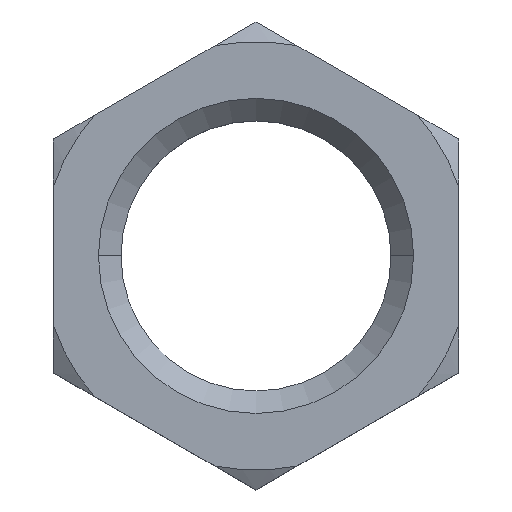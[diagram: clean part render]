
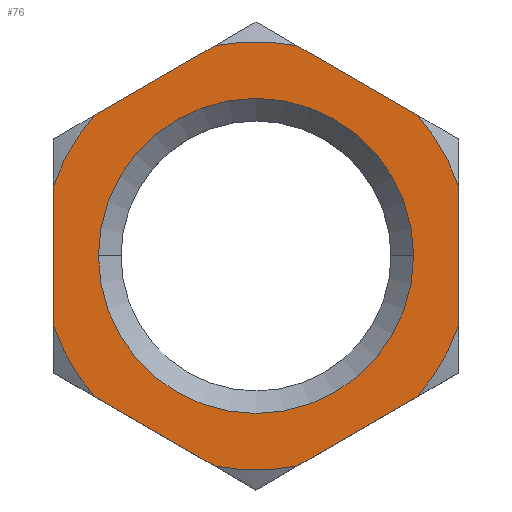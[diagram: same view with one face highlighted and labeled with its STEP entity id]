
A CAD part, top view. The second image highlights one B-rep face of the part: STEP entity #76.
In plain terms, the highlighted planar face has unit normal (0, 0, 1).
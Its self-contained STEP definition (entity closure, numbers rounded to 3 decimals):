
#7 = EDGE_CURVE ( 'NONE', #98, #9, #523, .T. ) ;
#9 = VERTEX_POINT ( 'NONE', #710 ) ;
#20 = CARTESIAN_POINT ( 'NONE',  ( -18., 6.19, 5.45 ) ) ;
#25 = DIRECTION ( 'NONE',  ( 0., -1., 0. ) ) ;
#47 = CARTESIAN_POINT ( 'NONE',  ( 18., 10.392, 5.45 ) ) ;
#48 = DIRECTION ( 'NONE',  ( -1., 0., 0. ) ) ;
#51 = DIRECTION ( 'NONE',  ( 1., 0., 0. ) ) ;
#75 = VERTEX_POINT ( 'NONE', #213 ) ;
#76 = ADVANCED_FACE ( 'NONE', ( #797, #432 ), #652, .T. ) ;
#81 = VECTOR ( 'NONE', #636, 1000. ) ;
#91 = DIRECTION ( 'NONE',  ( -1., 0., 0. ) ) ;
#98 = VERTEX_POINT ( 'NONE', #655 ) ;
#99 = CARTESIAN_POINT ( 'NONE',  ( 0., 20.785, 5.45 ) ) ;
#102 = LINE ( 'NONE', #732, #270 ) ;
#106 = CIRCLE ( 'NONE', #718, 19.035 ) ;
#120 = VERTEX_POINT ( 'NONE', #806 ) ;
#123 = VERTEX_POINT ( 'NONE', #305 ) ;
#128 = ORIENTED_EDGE ( 'NONE', *, *, #7, .T. ) ;
#139 = VERTEX_POINT ( 'NONE', #20 ) ;
#146 = EDGE_CURVE ( 'NONE', #596, #624, #760, .T. ) ;
#153 = DIRECTION ( 'NONE',  ( 0., 0., 1. ) ) ;
#156 = VECTOR ( 'NONE', #544, 1000. ) ;
#163 = VERTEX_POINT ( 'NONE', #447 ) ;
#165 = DIRECTION ( 'NONE',  ( 1., 0., 0. ) ) ;
#185 = CIRCLE ( 'NONE', #228, 14. ) ;
#188 = EDGE_CURVE ( 'NONE', #208, #120, #607, .T. ) ;
#198 = AXIS2_PLACEMENT_3D ( 'NONE', #273, #425, #697 ) ;
#199 = CIRCLE ( 'NONE', #486, 19.035 ) ;
#202 = ORIENTED_EDGE ( 'NONE', *, *, #912, .T. ) ;
#208 = VERTEX_POINT ( 'NONE', #880 ) ;
#213 = CARTESIAN_POINT ( 'NONE',  ( 3.639, -18.683, 5.45 ) ) ;
#218 = EDGE_LOOP ( 'NONE', ( #661, #643 ) ) ;
#219 = CARTESIAN_POINT ( 'NONE',  ( -18., -10.392, 5.45 ) ) ;
#224 = EDGE_CURVE ( 'NONE', #139, #120, #106, .T. ) ;
#228 = AXIS2_PLACEMENT_3D ( 'NONE', #831, #483, #51 ) ;
#231 = CIRCLE ( 'NONE', #365, 19.035 ) ;
#235 = EDGE_CURVE ( 'NONE', #75, #9, #231, .T. ) ;
#255 = CARTESIAN_POINT ( 'NONE',  ( 0., 0., 5.45 ) ) ;
#270 = VECTOR ( 'NONE', #25, 1000. ) ;
#273 = CARTESIAN_POINT ( 'NONE',  ( 0., 0., 5.45 ) ) ;
#276 = ORIENTED_EDGE ( 'NONE', *, *, #868, .F. ) ;
#285 = CARTESIAN_POINT ( 'NONE',  ( 14.361, -12.493, 5.45 ) ) ;
#292 = ORIENTED_EDGE ( 'NONE', *, *, #188, .T. ) ;
#305 = CARTESIAN_POINT ( 'NONE',  ( 14.361, 12.493, 5.45 ) ) ;
#310 = DIRECTION ( 'NONE',  ( 0., 0., -1. ) ) ;
#313 = DIRECTION ( 'NONE',  ( -1., 0., 0. ) ) ;
#322 = ORIENTED_EDGE ( 'NONE', *, *, #524, .F. ) ;
#327 = EDGE_CURVE ( 'NONE', #909, #163, #185, .T. ) ;
#328 = CARTESIAN_POINT ( 'NONE',  ( 14., 0., 5.45 ) ) ;
#335 = VECTOR ( 'NONE', #705, 1000. ) ;
#344 = CIRCLE ( 'NONE', #371, 19.035 ) ;
#348 = ORIENTED_EDGE ( 'NONE', *, *, #670, .T. ) ;
#355 = LINE ( 'NONE', #47, #156 ) ;
#364 = DIRECTION ( 'NONE',  ( -1., 0., 0. ) ) ;
#365 = AXIS2_PLACEMENT_3D ( 'NONE', #741, #310, #313 ) ;
#371 = AXIS2_PLACEMENT_3D ( 'NONE', #468, #405, #755 ) ;
#374 = VECTOR ( 'NONE', #891, 1000. ) ;
#377 = ORIENTED_EDGE ( 'NONE', *, *, #799, .T. ) ;
#391 = DIRECTION ( 'NONE',  ( 0., 0., -1. ) ) ;
#397 = CARTESIAN_POINT ( 'NONE',  ( 0., -20.785, 5.45 ) ) ;
#405 = DIRECTION ( 'NONE',  ( 0., 0., -1. ) ) ;
#412 = VERTEX_POINT ( 'NONE', #840 ) ;
#415 = CARTESIAN_POINT ( 'NONE',  ( 0., 0., 5.45 ) ) ;
#425 = DIRECTION ( 'NONE',  ( 0., 0., -1. ) ) ;
#432 = FACE_OUTER_BOUND ( 'NONE', #613, .T. ) ;
#440 = EDGE_CURVE ( 'NONE', #163, #909, #565, .T. ) ;
#447 = CARTESIAN_POINT ( 'NONE',  ( -14., 0., 5.45 ) ) ;
#467 = LINE ( 'NONE', #569, #81 ) ;
#468 = CARTESIAN_POINT ( 'NONE',  ( 0., 0., 5.45 ) ) ;
#482 = ORIENTED_EDGE ( 'NONE', *, *, #235, .F. ) ;
#483 = DIRECTION ( 'NONE',  ( 0., 0., -1. ) ) ;
#486 = AXIS2_PLACEMENT_3D ( 'NONE', #784, #861, #364 ) ;
#502 = VECTOR ( 'NONE', #892, 1000. ) ;
#513 = EDGE_CURVE ( 'NONE', #596, #412, #467, .T. ) ;
#523 = LINE ( 'NONE', #219, #335 ) ;
#524 = EDGE_CURVE ( 'NONE', #208, #867, #604, .T. ) ;
#539 = ORIENTED_EDGE ( 'NONE', *, *, #224, .F. ) ;
#544 = DIRECTION ( 'NONE',  ( -0.866, 0.5, 0. ) ) ;
#550 = ORIENTED_EDGE ( 'NONE', *, *, #513, .T. ) ;
#565 = CIRCLE ( 'NONE', #641, 14. ) ;
#569 = CARTESIAN_POINT ( 'NONE',  ( 18., -10.392, 5.45 ) ) ;
#593 = EDGE_CURVE ( 'NONE', #123, #412, #199, .T. ) ;
#596 = VERTEX_POINT ( 'NONE', #860 ) ;
#604 = CIRCLE ( 'NONE', #198, 19.035 ) ;
#607 = LINE ( 'NONE', #99, #502 ) ;
#609 = AXIS2_PLACEMENT_3D ( 'NONE', #721, #153, #165 ) ;
#613 = EDGE_LOOP ( 'NONE', ( #878, #550, #626, #202, #322, #292, #539, #377, #276, #128, #482, #348 ) ) ;
#624 = VERTEX_POINT ( 'NONE', #285 ) ;
#626 = ORIENTED_EDGE ( 'NONE', *, *, #593, .F. ) ;
#628 = DIRECTION ( 'NONE',  ( 0., 0., -1. ) ) ;
#636 = DIRECTION ( 'NONE',  ( 0., 1., 0. ) ) ;
#641 = AXIS2_PLACEMENT_3D ( 'NONE', #415, #628, #907 ) ;
#643 = ORIENTED_EDGE ( 'NONE', *, *, #440, .T. ) ;
#652 = PLANE ( 'NONE',  #609 ) ;
#654 = AXIS2_PLACEMENT_3D ( 'NONE', #871, #794, #91 ) ;
#655 = CARTESIAN_POINT ( 'NONE',  ( -14.361, -12.493, 5.45 ) ) ;
#661 = ORIENTED_EDGE ( 'NONE', *, *, #327, .T. ) ;
#670 = EDGE_CURVE ( 'NONE', #75, #624, #759, .T. ) ;
#675 = CARTESIAN_POINT ( 'NONE',  ( 3.639, 18.683, 5.45 ) ) ;
#697 = DIRECTION ( 'NONE',  ( -1., 0., 0. ) ) ;
#705 = DIRECTION ( 'NONE',  ( 0.866, -0.5, 0. ) ) ;
#710 = CARTESIAN_POINT ( 'NONE',  ( -3.639, -18.683, 5.45 ) ) ;
#718 = AXIS2_PLACEMENT_3D ( 'NONE', #255, #391, #48 ) ;
#721 = CARTESIAN_POINT ( 'NONE',  ( 0., 0., 5.45 ) ) ;
#732 = CARTESIAN_POINT ( 'NONE',  ( -18., 10.392, 5.45 ) ) ;
#741 = CARTESIAN_POINT ( 'NONE',  ( 0., 0., 5.45 ) ) ;
#755 = DIRECTION ( 'NONE',  ( -1., 0., 0. ) ) ;
#759 = LINE ( 'NONE', #397, #374 ) ;
#760 = CIRCLE ( 'NONE', #654, 19.035 ) ;
#784 = CARTESIAN_POINT ( 'NONE',  ( 0., 0., 5.45 ) ) ;
#794 = DIRECTION ( 'NONE',  ( 0., 0., -1. ) ) ;
#797 = FACE_BOUND ( 'NONE', #218, .T. ) ;
#799 = EDGE_CURVE ( 'NONE', #139, #858, #102, .T. ) ;
#806 = CARTESIAN_POINT ( 'NONE',  ( -14.361, 12.493, 5.45 ) ) ;
#817 = CARTESIAN_POINT ( 'NONE',  ( -18., -6.19, 5.45 ) ) ;
#831 = CARTESIAN_POINT ( 'NONE',  ( 0., 0., 5.45 ) ) ;
#840 = CARTESIAN_POINT ( 'NONE',  ( 18., 6.19, 5.45 ) ) ;
#858 = VERTEX_POINT ( 'NONE', #817 ) ;
#860 = CARTESIAN_POINT ( 'NONE',  ( 18., -6.19, 5.45 ) ) ;
#861 = DIRECTION ( 'NONE',  ( 0., 0., -1. ) ) ;
#867 = VERTEX_POINT ( 'NONE', #675 ) ;
#868 = EDGE_CURVE ( 'NONE', #98, #858, #344, .T. ) ;
#871 = CARTESIAN_POINT ( 'NONE',  ( 0., 0., 5.45 ) ) ;
#878 = ORIENTED_EDGE ( 'NONE', *, *, #146, .F. ) ;
#880 = CARTESIAN_POINT ( 'NONE',  ( -3.639, 18.683, 5.45 ) ) ;
#891 = DIRECTION ( 'NONE',  ( 0.866, 0.5, 0. ) ) ;
#892 = DIRECTION ( 'NONE',  ( -0.866, -0.5, 0. ) ) ;
#907 = DIRECTION ( 'NONE',  ( 1., 0., 0. ) ) ;
#909 = VERTEX_POINT ( 'NONE', #328 ) ;
#912 = EDGE_CURVE ( 'NONE', #123, #867, #355, .T. ) ;
